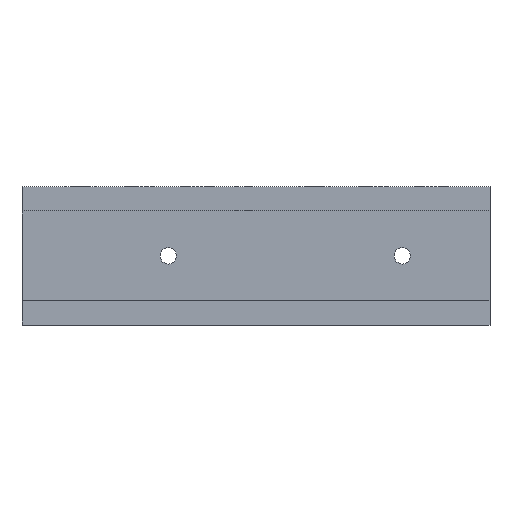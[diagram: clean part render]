
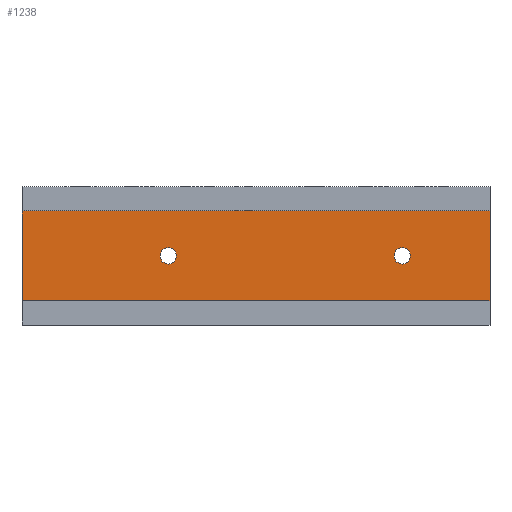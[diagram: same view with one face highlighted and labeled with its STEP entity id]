
A CAD part, top view. The second image highlights one B-rep face of the part: STEP entity #1238.
In plain terms, the highlighted planar face has unit normal (0, 0, 1).
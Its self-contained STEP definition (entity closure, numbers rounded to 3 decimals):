
#366 = VERTEX_POINT ( 'NONE', #7007 ) ;
#549 = DIRECTION ( 'NONE',  ( 0., 0., -1. ) ) ;
#579 = CARTESIAN_POINT ( 'NONE',  ( 19.449, -14.635, 4.25 ) ) ;
#734 = VERTEX_POINT ( 'NONE', #5872 ) ;
#816 = AXIS2_PLACEMENT_3D ( 'NONE', #10254, #8217, #3227 ) ;
#1238 = ADVANCED_FACE ( 'NONE', ( #9566, #8617, #5269 ), #3525, .T. ) ;
#1637 = DIRECTION ( 'NONE',  ( 0., 0., 1. ) ) ;
#1737 = CARTESIAN_POINT ( 'NONE',  ( 81.549, -14.635, 4.25 ) ) ;
#1885 = CIRCLE ( 'NONE', #816, 2.1 ) ;
#1886 = CARTESIAN_POINT ( 'NONE',  ( -15.951, -26.135, 4.25 ) ) ;
#2576 = DIRECTION ( 'NONE',  ( 1., 0., 0. ) ) ;
#2602 = EDGE_CURVE ( 'NONE', #734, #4526, #5577, .T. ) ;
#2678 = DIRECTION ( 'NONE',  ( 0., 0., -1. ) ) ;
#2731 = CIRCLE ( 'NONE', #3604, 2.1 ) ;
#3037 = AXIS2_PLACEMENT_3D ( 'NONE', #1737, #2678, #8822 ) ;
#3049 = EDGE_CURVE ( 'NONE', #5297, #366, #9208, .T. ) ;
#3060 = VERTEX_POINT ( 'NONE', #579 ) ;
#3227 = DIRECTION ( 'NONE',  ( -1., 0., 0. ) ) ;
#3334 = CARTESIAN_POINT ( 'NONE',  ( 23.649, -14.635, 4.25 ) ) ;
#3525 = PLANE ( 'NONE',  #12434 ) ;
#3604 = AXIS2_PLACEMENT_3D ( 'NONE', #10487, #8461, #4385 ) ;
#3800 = VECTOR ( 'NONE', #3867, 1000. ) ;
#3803 = VECTOR ( 'NONE', #10365, 1000. ) ;
#3867 = DIRECTION ( 'NONE',  ( 1., 0., 0. ) ) ;
#4010 = DIRECTION ( 'NONE',  ( -1., 0., 0. ) ) ;
#4059 = CARTESIAN_POINT ( 'NONE',  ( 104.049, -3.135, 4.25 ) ) ;
#4235 = ORIENTED_EDGE ( 'NONE', *, *, #5521, .T. ) ;
#4385 = DIRECTION ( 'NONE',  ( -1., 0., 0. ) ) ;
#4423 = LINE ( 'NONE', #10663, #7627 ) ;
#4456 = ORIENTED_EDGE ( 'NONE', *, *, #11535, .T. ) ;
#4526 = VERTEX_POINT ( 'NONE', #6776 ) ;
#4793 = EDGE_LOOP ( 'NONE', ( #4456, #12313, #10397, #10541 ) ) ;
#4985 = CARTESIAN_POINT ( 'NONE',  ( -15.951, -3.135, 4.25 ) ) ;
#5116 = EDGE_LOOP ( 'NONE', ( #12581, #11545 ) ) ;
#5179 = EDGE_CURVE ( 'NONE', #366, #5297, #1885, .T. ) ;
#5269 = FACE_OUTER_BOUND ( 'NONE', #4793, .T. ) ;
#5297 = VERTEX_POINT ( 'NONE', #6261 ) ;
#5521 = EDGE_CURVE ( 'NONE', #3060, #10103, #9821, .T. ) ;
#5577 = LINE ( 'NONE', #1886, #3800 ) ;
#5872 = CARTESIAN_POINT ( 'NONE',  ( -15.951, -26.135, 4.25 ) ) ;
#6147 = AXIS2_PLACEMENT_3D ( 'NONE', #12751, #549, #7941 ) ;
#6261 = CARTESIAN_POINT ( 'NONE',  ( 83.649, -14.635, 4.25 ) ) ;
#6776 = CARTESIAN_POINT ( 'NONE',  ( 104.049, -26.135, 4.25 ) ) ;
#6952 = DIRECTION ( 'NONE',  ( 0., -1., 0. ) ) ;
#7007 = CARTESIAN_POINT ( 'NONE',  ( 79.449, -14.635, 4.25 ) ) ;
#7489 = CARTESIAN_POINT ( 'NONE',  ( 104.049, -3.135, 4.25 ) ) ;
#7627 = VECTOR ( 'NONE', #4010, 1000. ) ;
#7651 = LINE ( 'NONE', #7489, #3803 ) ;
#7941 = DIRECTION ( 'NONE',  ( -1., 0., 0. ) ) ;
#8217 = DIRECTION ( 'NONE',  ( 0., 0., -1. ) ) ;
#8461 = DIRECTION ( 'NONE',  ( 0., 0., -1. ) ) ;
#8617 = FACE_BOUND ( 'NONE', #5116, .T. ) ;
#8822 = DIRECTION ( 'NONE',  ( -1., 0., 0. ) ) ;
#9208 = CIRCLE ( 'NONE', #3037, 2.1 ) ;
#9556 = ORIENTED_EDGE ( 'NONE', *, *, #10114, .T. ) ;
#9566 = FACE_BOUND ( 'NONE', #12166, .T. ) ;
#9640 = LINE ( 'NONE', #4985, #10912 ) ;
#9680 = CARTESIAN_POINT ( 'NONE',  ( 44.049, -14.635, 4.25 ) ) ;
#9821 = CIRCLE ( 'NONE', #6147, 2.1 ) ;
#9838 = EDGE_CURVE ( 'NONE', #13074, #734, #9640, .T. ) ;
#10103 = VERTEX_POINT ( 'NONE', #3334 ) ;
#10114 = EDGE_CURVE ( 'NONE', #10103, #3060, #2731, .T. ) ;
#10254 = CARTESIAN_POINT ( 'NONE',  ( 81.549, -14.635, 4.25 ) ) ;
#10365 = DIRECTION ( 'NONE',  ( 0., 1., 0. ) ) ;
#10397 = ORIENTED_EDGE ( 'NONE', *, *, #9838, .T. ) ;
#10487 = CARTESIAN_POINT ( 'NONE',  ( 21.549, -14.635, 4.25 ) ) ;
#10541 = ORIENTED_EDGE ( 'NONE', *, *, #2602, .T. ) ;
#10663 = CARTESIAN_POINT ( 'NONE',  ( -15.951, -3.135, 4.25 ) ) ;
#10882 = VERTEX_POINT ( 'NONE', #4059 ) ;
#10912 = VECTOR ( 'NONE', #6952, 1000. ) ;
#11535 = EDGE_CURVE ( 'NONE', #4526, #10882, #7651, .T. ) ;
#11545 = ORIENTED_EDGE ( 'NONE', *, *, #3049, .T. ) ;
#11872 = EDGE_CURVE ( 'NONE', #10882, #13074, #4423, .T. ) ;
#12166 = EDGE_LOOP ( 'NONE', ( #4235, #9556 ) ) ;
#12313 = ORIENTED_EDGE ( 'NONE', *, *, #11872, .T. ) ;
#12434 = AXIS2_PLACEMENT_3D ( 'NONE', #9680, #1637, #2576 ) ;
#12581 = ORIENTED_EDGE ( 'NONE', *, *, #5179, .T. ) ;
#12751 = CARTESIAN_POINT ( 'NONE',  ( 21.549, -14.635, 4.25 ) ) ;
#12914 = CARTESIAN_POINT ( 'NONE',  ( -15.951, -3.135, 4.25 ) ) ;
#13074 = VERTEX_POINT ( 'NONE', #12914 ) ;
